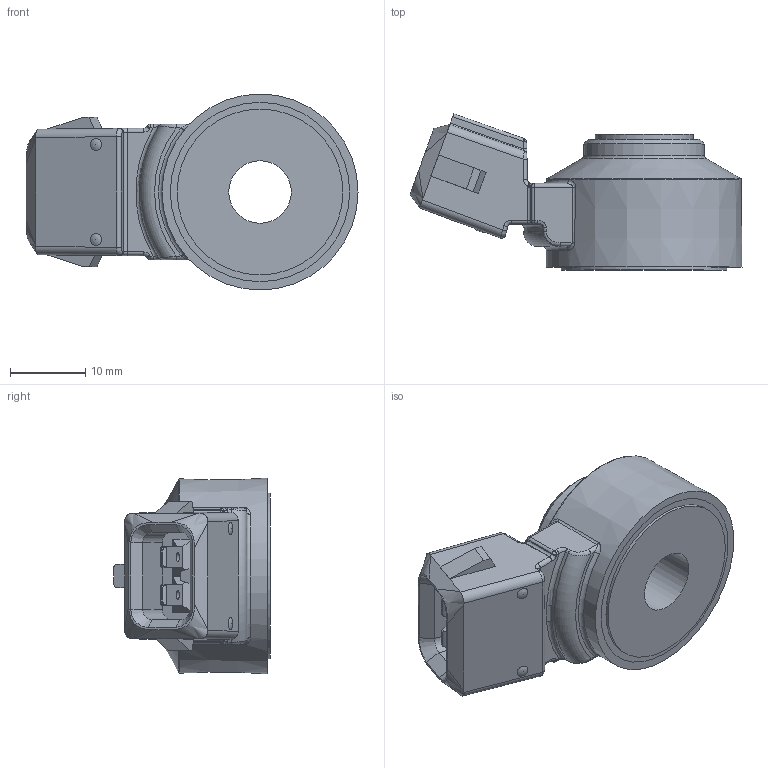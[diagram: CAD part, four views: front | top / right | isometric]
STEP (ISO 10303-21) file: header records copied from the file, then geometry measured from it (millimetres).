
FILE_DESCRIPTION(/* description */ (''),/* implementation_level */ '2;1');
FILE_NAME(/* name */ '0261231188-189.stp',/* time_stamp */ '2017-05-02T11:11:16+02:00',/* author */ (''),/* organization */ (''),/* preprocessor_version */ 'ST-DEVELOPER v15',/* originating_system */ 'SIEMENS PLM Software NX 9.0',/* authorisation */ '');
FILE_SCHEMA (('AUTOMOTIVE_DESIGN { 1 0 10303 214 3 1 1 1 }'));
Length unit declared in the file: millimetre
Products named in the file (1): stt21078536Fb5nx
Bounding box: 44.05 x 20.74 x 26 mm (x, y, z)
Volume: 9308.5 mm3; surface area: 12816.7 mm2
Topology: 10 solids, 10 shells, 583 faces, 1525 edges, 970 vertices
Faces by surface type: plane 274, cylinder 226, bspline 34, cone 33, torus 8, sphere 8
Full cylindrical faces by diameter (mm): 0.5 x2, 1.2 x2, 1.6 x1, 8.3 x1, 11.8 x4, 13 x6, 14 x3, 14.5 x4, 15 x6, 15.5 x2, 16 x1, 21 x1, 22 x1, 22.3 x4, 23.8 x6, 24 x5
Entity records: 22994 total; most frequent: CARTESIAN_POINT 5015, DIRECTION 2845, ORIENTED_EDGE 2816, EDGE_CURVE 1408, AXIS2_PLACEMENT_3D 1041, VERTEX_POINT 941, LINE 763, VECTOR 763
